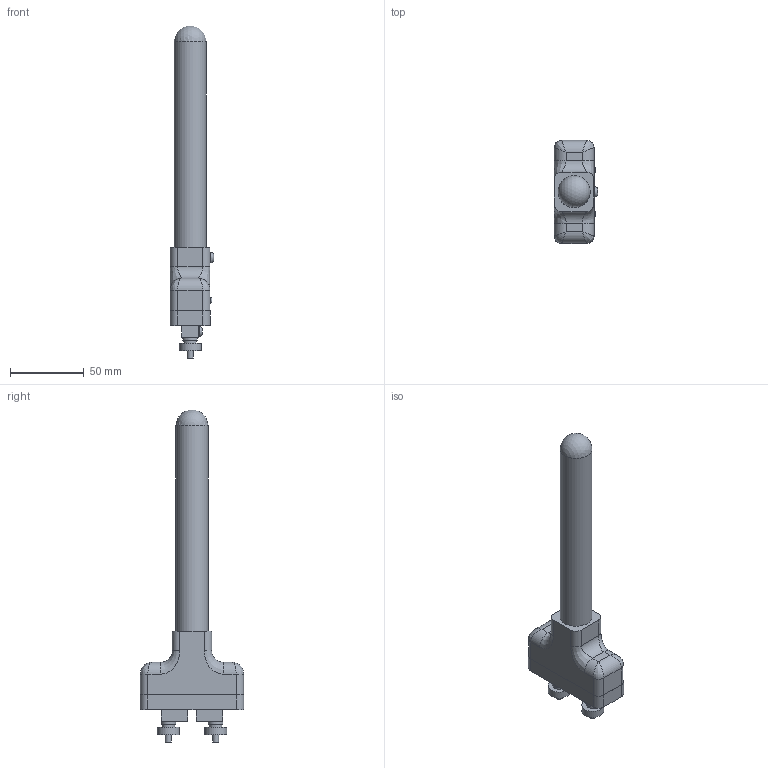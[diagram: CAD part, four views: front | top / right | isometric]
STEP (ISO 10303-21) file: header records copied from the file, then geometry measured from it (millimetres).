
FILE_DESCRIPTION (( 'STEP AP203' ), '1' );
FILE_NAME ('YIT85-8(0).step', '2025-08-26T07:23:58', ( '' ), ( '' ), 'SwSTEP 2.0', 'SolidWorks 2024', '' );
FILE_SCHEMA (( 'CONFIG_CONTROL_DESIGN' ));
Length unit declared in the file: millimetre
Products named in the file (1): YIT85-8(0)
Bounding box: 29.55 x 70 x 224.92 mm (x, y, z)
Volume: 133453.8 mm3; surface area: 25257.9 mm2
Topology: 9 solids, 9 shells, 242 faces, 571 edges, 370 vertices
Faces by surface type: plane 172, cylinder 54, bspline 8, torus 7, sphere 1
Full cylindrical faces by diameter (mm): 1.5 x2, 2 x2, 3 x1, 3.5 x2, 4 x11, 7 x7, 8.5 x2, 10 x2, 11 x1, 12 x1, 15 x2, 21.7 x1
Entity records: 7231 total; most frequent: CARTESIAN_POINT 1989, ORIENTED_EDGE 1016, DIRECTION 1008, EDGE_CURVE 508, VERTEX_POINT 354, AXIS2_PLACEMENT_3D 347, LINE 314, VECTOR 314
